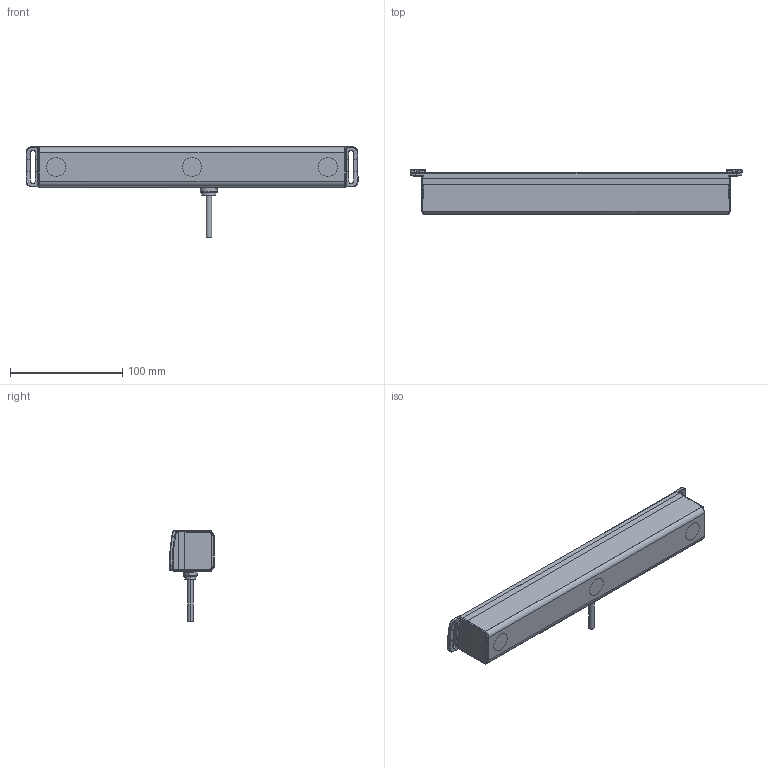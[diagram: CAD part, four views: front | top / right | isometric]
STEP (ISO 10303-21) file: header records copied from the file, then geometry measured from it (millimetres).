
FILE_DESCRIPTION (( 'STEP AP203' ), '1' );
FILE_NAME ('3D_TBL3.STEP', '2022-05-27T09:41:37', ( '' ), ( '' ), 'SwSTEP 2.0', 'SolidWorks 2015', '' );
FILE_SCHEMA (( 'CONFIG_CONTROL_DESIGN' ));
Length unit declared in the file: inch
Products named in the file (1): 3D_TBL3
Bounding box: 295.88 x 40 x 80.6 mm (x, y, z)
Volume: 374095 mm3; surface area: 109460.5 mm2
Topology: 7 solids, 8 shells, 376 faces, 921 edges, 569 vertices
Faces by surface type: bspline 135, plane 125, cylinder 116
Entity records: 19529 total; most frequent: CARTESIAN_POINT 11717, ORIENTED_EDGE 1830, DIRECTION 1264, EDGE_CURVE 915, VERTEX_POINT 569, VECTOR 428, LINE 428, AXIS2_PLACEMENT_3D 418
